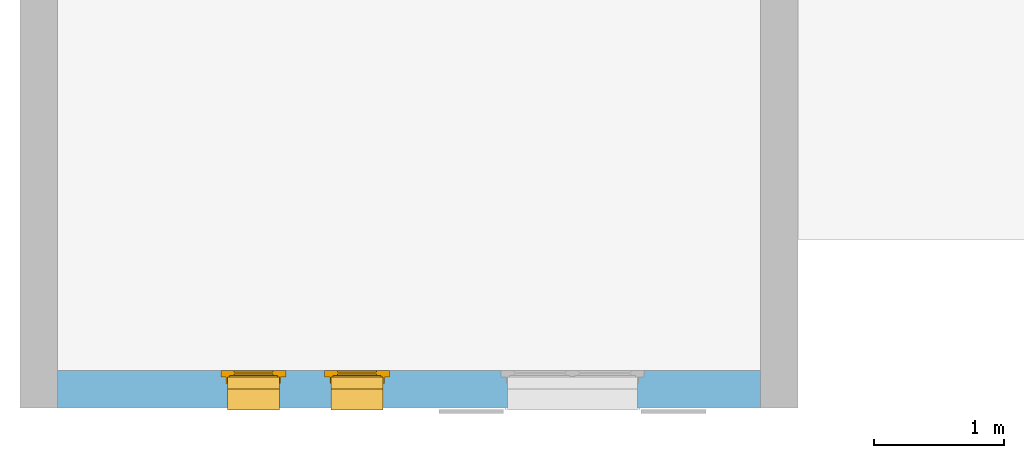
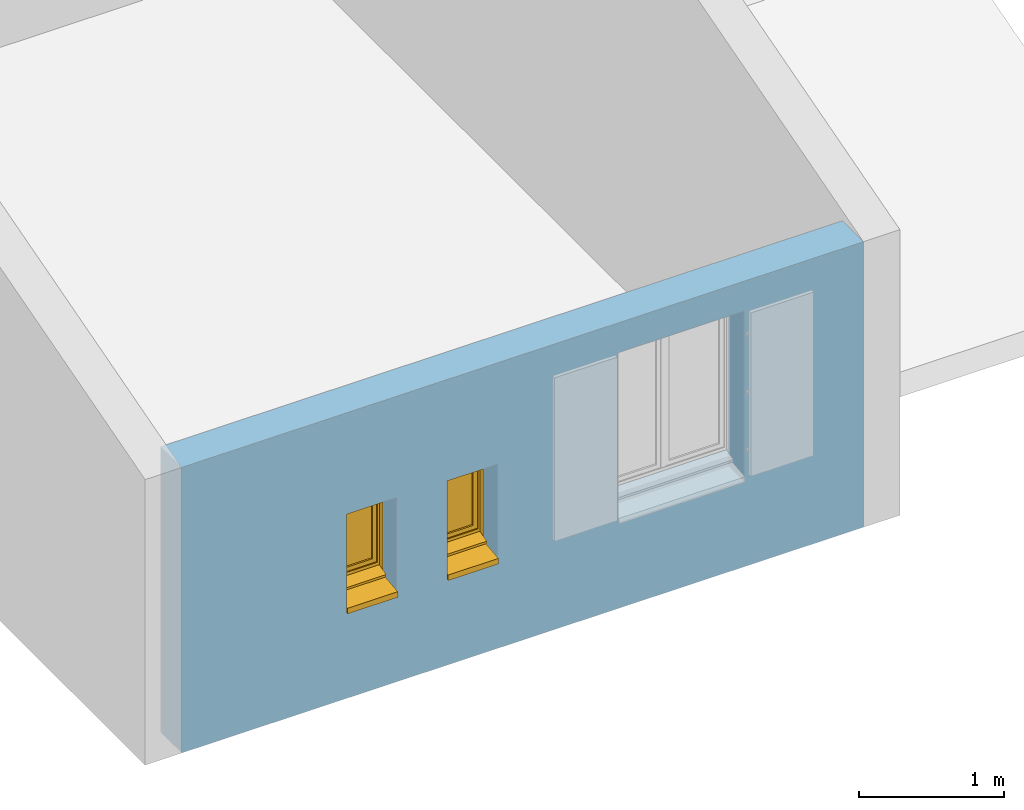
# One storey, part 3 of 6: 2 windows, 3 openings, plus 1 element that does not belong to this part.
"""IFC2X3 building model written with IfcOpenShell, lengths in metres."""

from ifc_helpers import new_model, entity, si_unit, converted_unit, derived_unit, direction, frame, frame_2d, origin, place, context, subcontext, project, spatial, rectangle, extrude, faceted_brep, source, transform, mapped, material, material_list, layer, layer_set, layer_usage, type_object, type_shapes, element, fill, save


model = new_model("IFC2X3")

# Units and contexts
model_context = context("Model", 3, precision=1e-05, world=origin(), true_north=direction((6.12303176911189e-17, 1.0)))
context_of_model = context(None, 3, precision=1e-05, world=origin(), true_north=direction((6.12303176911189e-17, 1.0)))
body_context = subcontext(model_context, "Body", "Model", "MODEL_VIEW")
ifc_project = project(units=[si_unit("LENGTHUNIT", "METRE"), si_unit("AREAUNIT", "SQUARE_METRE"), si_unit("VOLUMEUNIT", "CUBIC_METRE"), converted_unit("PLANEANGLEUNIT", "DEGREE", entity("IfcRatioMeasure", 0.0174532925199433), si_unit("PLANEANGLEUNIT", "RADIAN"), dimensions=[0, 0, 0, 0, 0, 0, 0]), si_unit("MASSUNIT", "GRAM", prefix="KILO"), si_unit("TIMEUNIT", "SECOND"), si_unit("FREQUENCYUNIT", "HERTZ"), si_unit("THERMODYNAMICTEMPERATUREUNIT", "DEGREE_CELSIUS"), derived_unit("THERMALTRANSMITTANCEUNIT", [(si_unit("MASSUNIT", "GRAM", prefix="KILO"), 1), (si_unit("THERMODYNAMICTEMPERATUREUNIT", "KELVIN"), -1), (si_unit("TIMEUNIT", "SECOND"), -3)]), derived_unit("VOLUMETRICFLOWRATEUNIT", [(si_unit("LENGTHUNIT", "METRE"), 3), (si_unit("TIMEUNIT", "SECOND"), -1)]), si_unit("ELECTRICCURRENTUNIT", "AMPERE"), si_unit("ELECTRICVOLTAGEUNIT", "VOLT"), si_unit("POWERUNIT", "WATT"), si_unit("FORCEUNIT", "NEWTON", prefix="KILO"), si_unit("ILLUMINANCEUNIT", "LUX"), si_unit("LUMINOUSFLUXUNIT", "LUMEN"), si_unit("LUMINOUSINTENSITYUNIT", "CANDELA"), si_unit("PRESSUREUNIT", "PASCAL")], contexts=[model_context, context_of_model])

# Site, building, storey
site_placement = place(None, origin())
site = spatial("IfcSite", under=ifc_project, at=site_placement, Name="Surface", CompositionType="ELEMENT")
building_placement = place(site_placement, origin())
building = spatial("IfcBuilding", under=site, at=building_placement, CompositionType="ELEMENT")
storey_placement = place(building_placement, frame((0.0, 0.0, 2.64)))
storey = spatial("IfcBuildingStorey", under=building, at=storey_placement, Name="Niveau 1", CompositionType="ELEMENT", Elevation=2.64)

# Wall, openings, windows
ifc_material_1 = material(Name="Maçonnerie - Enduit")
ifc_layer_1 = layer(ifc_material_1, 0.01)
ifc_material_2 = material(Name="Eléments de maçonnerie en béton")
ifc_layer_2 = layer(ifc_material_2, 0.2)
ifc_material_3 = material(Name="Maçonnerie - Isolant")
ifc_layer_3 = layer(ifc_material_3, 0.08)
ifc_layer_set = layer_set([ifc_layer_1, ifc_layer_2, ifc_layer_3], Name="Mur de base:Ext. Parpaing 20 + Isolant 8")
ifc_layer_usage = layer_usage(ifc_layer_set, "AXIS2", "NEGATIVE", 0.145)
wall_type = type_object("IfcWallType", Name="Mur de base:Ext. Parpaing 20 + Isolant 8", PredefinedType="STANDARD", material=ifc_layer_set)
wall_placement = place(storey_placement, frame((-3.08909160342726, -7.21358265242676, 0.0), z_axis=(0.0, 0.0, 1.0), x_axis=(-1.0, 0.0, 0.0)))
wall = element("IfcWallStandardCase", 1, at=wall_placement, inside=storey, type_object=wall_type, material=ifc_layer_usage, Name="Mur de base:Ext. Parpaing 20 + Isolant 8", ObjectType="Mur de base:Ext. Parpaing 20 + Isolant 8", context=body_context, shape_type="SweptSolid", body=[
    extrude(rectangle(XDim=5.42, YDim=0.289999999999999, at=frame_2d((2.71, 0.0), x_axis=(-1.0, 0.0))), origin(), (0.0, 0.0, 1.0), 2.4),
])
opening_1_placement = place(wall_placement, frame((2.0, 0.500000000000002, 0.72), z_axis=(0.0, 0.0, 1.0), x_axis=(-1.0, 0.0, 0.0)))
element("IfcOpeningElement", 2, at=opening_1_placement, cuts=wall, Name="Mur de base:Ext. Parpaing 20 + Isolant 8", ObjectType="Opening", context=body_context, shape_type="Brep", body=[
    faceted_brep([(1.05, 0.565000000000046, 0.0800000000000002), (1.05, 0.544999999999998, 0.0800000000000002), (1.05, 0.544999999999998, 1.43), (1.05, 0.0, 1.43), (1.05, 0.0, 0.0), (1.05, 0.565000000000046, 0.0), (0.0500000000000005, 1.0, 0.0800000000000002), (0.0499999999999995, 0.645000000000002, 0.0800000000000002), (0.0499999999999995, 0.645000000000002, 1.43), (0.0500000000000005, 1.0, 1.43), (1.05, 1.0, 0.0800000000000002), (1.05, 0.645000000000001, 0.0800000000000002), (1.1, 0.645000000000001, 0.0800000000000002), (1.1, 0.595000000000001, 0.0800000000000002), (1.06, 0.595000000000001, 0.0800000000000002), (1.06, 0.544999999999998, 0.0800000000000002), (0.0499999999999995, 0.565000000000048, 0.0800000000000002), (0.0499999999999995, 0.544999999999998, 0.0800000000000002), (0.0399999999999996, 0.544999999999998, 0.0800000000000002), (0.0399999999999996, 0.595000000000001, 0.0800000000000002), (0.0, 0.595000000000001, 0.0800000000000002), (0.0, 0.645000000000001, 0.0800000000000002), (1.05, 1.0, 1.43), (0.0499999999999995, 0.544999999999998, 1.43), (0.0499999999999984, 0.0, 1.43), (0.0499999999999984, 0.0, 0.0), (0.0499999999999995, 0.565000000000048, 0.0), (1.1, 0.645000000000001, 1.48), (1.1, 0.595000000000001, 1.48), (0.0, 0.595000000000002, 1.48), (0.0399999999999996, 0.595000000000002, 1.44), (1.06, 0.595000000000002, 1.44), (1.06, 0.545, 1.44), (0.0399999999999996, 0.544999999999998, 1.44), (1.05, 0.645000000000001, 1.43), (0.0, 0.645000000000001, 1.48)], [[[0, 1, 2, 3, 4, 5]], [[6, 7, 8, 9]], [[10, 11, 12, 13, 14, 15, 1, 0, 16, 17, 18, 19, 20, 21, 7, 6]], [[10, 6, 9, 22]], [[3, 2, 23, 24]], [[3, 24, 25, 4]], [[4, 25, 26, 5]], [[5, 26, 16, 0]], [[12, 27, 28, 13]], [[13, 28, 29, 20, 19, 30, 31, 14]], [[14, 31, 32, 15]], [[15, 32, 33, 18, 17, 23, 2, 1]], [[11, 34, 8, 7, 21, 35, 27, 12]], [[27, 35, 29, 28]], [[30, 33, 32, 31]], [[29, 35, 21, 20]], [[19, 18, 33, 30]], [[9, 8, 34, 22]], [[24, 23, 17, 16, 26, 25]], [[22, 34, 11, 10]]]),
])
opening_2_placement = place(wall_placement, frame((3.36, 0.500000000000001, 0.72), z_axis=(0.0, 0.0, 1.0), x_axis=(-1.0, 0.0, 0.0)))
opening_2 = element("IfcOpeningElement", 3, at=opening_2_placement, cuts=wall, Name="Mur de base:Ext. Parpaing 20 + Isolant 8", ObjectType="Opening", context=body_context, shape_type="Brep", body=[
    faceted_brep([(0.45, 0.565000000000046, 0.0800000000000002), (0.45, 0.544999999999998, 0.0800000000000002), (0.45, 0.544999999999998, 0.83), (0.449999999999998, 0.0, 0.83), (0.449999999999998, 0.0, 0.0), (0.45, 0.565000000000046, 0.0), (0.0500000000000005, 1.0, 0.0800000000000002), (0.0499999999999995, 0.645, 0.0800000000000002), (0.0499999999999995, 0.645, 0.83), (0.0500000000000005, 1.0, 0.83), (0.450000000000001, 1.0, 0.0800000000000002), (0.45, 0.645000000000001, 0.0800000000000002), (0.5, 0.645000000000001, 0.0800000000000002), (0.5, 0.595000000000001, 0.0800000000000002), (0.46, 0.595000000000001, 0.0800000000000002), (0.46, 0.544999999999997, 0.0800000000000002), (0.0500000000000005, 0.565000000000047, 0.0800000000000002), (0.0499999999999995, 0.544999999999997, 0.0799999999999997), (0.0400000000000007, 0.544999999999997, 0.0800000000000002), (0.0400000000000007, 0.595000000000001, 0.0800000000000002), (0.0, 0.595000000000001, 0.0800000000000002), (0.0, 0.645000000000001, 0.0800000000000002), (0.450000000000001, 1.0, 0.83), (0.0499999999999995, 0.544999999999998, 0.83), (0.0499999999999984, 0.0, 0.83), (0.0499999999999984, 0.0, 0.0), (0.0499999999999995, 0.565000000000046, 0.0), (0.499999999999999, 0.645, 0.879999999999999), (0.499999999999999, 0.595, 0.88), (0.0, 0.595000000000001, 0.88), (0.0399999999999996, 0.595000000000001, 0.840000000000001), (0.46, 0.595000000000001, 0.840000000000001), (0.459999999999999, 0.544999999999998, 0.84), (0.0399999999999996, 0.544999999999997, 0.84), (0.45, 0.645000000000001, 0.83), (0.0, 0.645, 0.88)], [[[0, 1, 2, 3, 4, 5]], [[6, 7, 8, 9]], [[10, 11, 12, 13, 14, 15, 1, 0, 16, 17, 18, 19, 20, 21, 7, 6]], [[10, 6, 9, 22]], [[3, 2, 23, 24]], [[3, 24, 25, 4]], [[4, 25, 26, 5]], [[5, 26, 16, 0]], [[12, 27, 28, 13]], [[13, 28, 29, 20, 19, 30, 31, 14]], [[14, 31, 32, 15]], [[15, 32, 33, 18, 17, 23, 2, 1]], [[11, 34, 8, 7, 21, 35, 27, 12]], [[27, 35, 29, 28]], [[30, 33, 32, 31]], [[29, 35, 21, 20]], [[19, 18, 33, 30]], [[9, 8, 34, 22]], [[24, 23, 17, 16, 26, 25]], [[22, 34, 11, 10]]]),
])
opening_3_placement = place(wall_placement, frame((4.16, 0.500000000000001, 0.72), z_axis=(0.0, 0.0, 1.0), x_axis=(-1.0, 0.0, 0.0)))
opening_3 = element("IfcOpeningElement", 4, at=opening_3_placement, cuts=wall, Name="Mur de base:Ext. Parpaing 20 + Isolant 8", ObjectType="Opening", context=body_context, shape_type="Brep", body=[
    faceted_brep([(0.45, 0.565000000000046, 0.0800000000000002), (0.45, 0.544999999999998, 0.0800000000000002), (0.45, 0.544999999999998, 0.83), (0.449999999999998, 0.0, 0.83), (0.449999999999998, 0.0, 0.0), (0.45, 0.565000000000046, 0.0), (0.0500000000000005, 1.0, 0.0800000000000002), (0.0499999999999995, 0.645, 0.0800000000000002), (0.0499999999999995, 0.645, 0.83), (0.0500000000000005, 1.0, 0.83), (0.450000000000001, 1.0, 0.0800000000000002), (0.45, 0.645000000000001, 0.0800000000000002), (0.5, 0.645000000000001, 0.0800000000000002), (0.5, 0.595000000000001, 0.0800000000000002), (0.46, 0.595000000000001, 0.0800000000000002), (0.46, 0.544999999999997, 0.0800000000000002), (0.0500000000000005, 0.565000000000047, 0.0800000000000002), (0.0499999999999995, 0.544999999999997, 0.0799999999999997), (0.0400000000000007, 0.544999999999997, 0.0800000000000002), (0.0400000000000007, 0.595000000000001, 0.0800000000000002), (0.0, 0.595000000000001, 0.0800000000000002), (0.0, 0.645000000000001, 0.0800000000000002), (0.450000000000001, 1.0, 0.83), (0.0499999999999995, 0.544999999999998, 0.83), (0.0499999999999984, 0.0, 0.83), (0.0499999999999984, 0.0, 0.0), (0.0499999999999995, 0.565000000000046, 0.0), (0.499999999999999, 0.645, 0.879999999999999), (0.499999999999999, 0.595, 0.88), (0.0, 0.595000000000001, 0.88), (0.0399999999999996, 0.595000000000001, 0.840000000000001), (0.46, 0.595000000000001, 0.840000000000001), (0.459999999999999, 0.544999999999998, 0.84), (0.0399999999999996, 0.544999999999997, 0.84), (0.45, 0.645000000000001, 0.83), (0.0, 0.645, 0.88)], [[[0, 1, 2, 3, 4, 5]], [[6, 7, 8, 9]], [[10, 11, 12, 13, 14, 15, 1, 0, 16, 17, 18, 19, 20, 21, 7, 6]], [[10, 6, 9, 22]], [[3, 2, 23, 24]], [[3, 24, 25, 4]], [[4, 25, 26, 5]], [[5, 26, 16, 0]], [[12, 27, 28, 13]], [[13, 28, 29, 20, 19, 30, 31, 14]], [[14, 31, 32, 15]], [[15, 32, 33, 18, 17, 23, 2, 1]], [[11, 34, 8, 7, 21, 35, 27, 12]], [[27, 35, 29, 28]], [[30, 33, 32, 31]], [[29, 35, 21, 20]], [[19, 18, 33, 30]], [[9, 8, 34, 22]], [[24, 23, 17, 16, 26, 25]], [[22, 34, 11, 10]]]),
])
ifc_material_4 = material(Name="Fenêtre - Poignée")
ifc_material_5 = material(Name="Fenêtre - Appui")
ifc_material_6 = material(Name="Fenêtre - Vitrage")
ifc_material_7 = material(Name="Fenêtre - Cadre")
ifc_material_list_1 = material_list([ifc_material_4, ifc_material_5, ifc_material_6, ifc_material_7])
ifc_material_list_2 = material_list([ifc_material_4, ifc_material_5, ifc_material_6, ifc_material_7])
window_style = type_object("IfcWindowStyle", Name="0.40m x 0.75m - Appui Béton", ConstructionType="NOTDEFINED", OperationType="NOTDEFINED", ParameterTakesPrecedence=False, Sizeable=False, material=ifc_material_list_2)
shared_shape = source(origin(), body_context, "Body", "Brep", [
    faceted_brep([(0.0806460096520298, -0.65100000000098, 0.702033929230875), (0.08203392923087, -0.65100000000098, 0.700646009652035), (0.08203392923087, -0.65100000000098, 0.68933230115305), (0.0806676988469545, -0.65100000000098, 0.687966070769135), (0.0693323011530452, -0.65100000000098, 0.687966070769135), (0.0679660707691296, -0.65100000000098, 0.689332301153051), (0.0679660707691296, -0.65100000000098, 0.700646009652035), (0.0693539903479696, -0.65100000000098, 0.702033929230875), (0.0806460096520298, -0.663913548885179, 0.702033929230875), (0.0820339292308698, -0.66333865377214, 0.700646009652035), (0.08203392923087, -0.67664600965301, 0.687338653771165), (0.08203392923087, -0.67664600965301, 0.600000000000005), (0.08203392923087, -0.665332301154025, 0.600000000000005), (0.08203392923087, -0.665332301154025, 0.68265236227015), (0.08203392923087, -0.658652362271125, 0.689332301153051), (0.0806676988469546, -0.658086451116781, 0.687966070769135), (0.0693323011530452, -0.658086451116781, 0.687966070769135), (0.0679660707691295, -0.658652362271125, 0.689332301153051), (0.0679660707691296, -0.665332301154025, 0.68265236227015), (0.0679660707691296, -0.665332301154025, 0.600000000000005), (0.0679660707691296, -0.67664600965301, 0.600000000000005), (0.0679660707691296, -0.67664600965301, 0.687338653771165), (0.0679660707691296, -0.66333865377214, 0.700646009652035), (0.0693539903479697, -0.663913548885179, 0.702033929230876), (0.0806460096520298, -0.67803392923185, 0.687913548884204), (0.0806676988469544, -0.66396607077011, 0.682086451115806), (0.0693323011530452, -0.663966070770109, 0.682086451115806), (0.0693539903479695, -0.67803392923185, 0.687913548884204), (0.0806460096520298, -0.67803392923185, 0.600000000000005), (0.0693539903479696, -0.67803392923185, 0.600000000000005), (0.0693323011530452, -0.663966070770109, 0.600000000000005), (0.0806676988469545, -0.66396607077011, 0.600000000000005)], [[[0, 1, 2, 3, 4, 5, 6, 7]], [[1, 0, 8, 9]], [[2, 1, 9, 10, 11, 12, 13, 14]], [[3, 2, 14, 15]], [[4, 3, 15, 16]], [[5, 4, 16, 17]], [[6, 5, 17, 18, 19, 20, 21, 22]], [[7, 6, 22, 23]], [[0, 7, 23, 8]], [[9, 8, 24, 10]], [[15, 14, 13, 25]], [[16, 15, 25, 26]], [[17, 16, 26, 18]], [[23, 22, 21, 27]], [[8, 23, 27, 24]], [[28, 29, 20, 19, 30, 31, 12, 11]], [[10, 24, 28, 11]], [[25, 13, 12, 31]], [[26, 25, 31, 30]], [[18, 26, 30, 19]], [[27, 21, 20, 29]], [[24, 27, 29, 28]]]),
    faceted_brep([(0.0820000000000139, -0.651, 0.720000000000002), (0.0679999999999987, -0.651, 0.720000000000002), (0.0629999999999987, -0.651, 0.715000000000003), (0.0629999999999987, -0.651, 0.644999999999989), (0.0679999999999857, -0.651, 0.640000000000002), (0.0820000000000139, -0.651, 0.640000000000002), (0.0869999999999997, -0.651, 0.644999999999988), (0.0869999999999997, -0.651, 0.715000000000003), (0.0820000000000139, -0.645, 0.720000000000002), (0.0869999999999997, -0.645, 0.715000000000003), (0.0869999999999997, -0.645, 0.644999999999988), (0.0820000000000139, -0.645, 0.640000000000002), (0.0679999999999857, -0.645, 0.640000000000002), (0.0629999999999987, -0.645, 0.644999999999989), (0.0629999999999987, -0.645, 0.715000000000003), (0.0679999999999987, -0.645, 0.720000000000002)], [[[0, 1, 2, 3, 4, 5, 6, 7]], [[8, 9, 10, 11, 12, 13, 14, 15]], [[1, 0, 8, 15]], [[2, 1, 15, 14]], [[3, 2, 14, 13]], [[4, 3, 13, 12]], [[5, 4, 12, 11]], [[6, 5, 11, 10]], [[7, 6, 10, 9]], [[0, 7, 9, 8]]]),
    faceted_brep([(0.0499999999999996, -0.564999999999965, 0.0799999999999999), (0.0499999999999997, -0.514999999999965, 0.0799999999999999), (0.0499999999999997, -0.514999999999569, 0.0650000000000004), (0.0499999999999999, -0.339999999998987, 0.0466067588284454), (0.0499999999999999, -0.339999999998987, 0.0), (0.0499999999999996, -0.564999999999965, 0.0), (0.45, -0.564999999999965, 0.0799999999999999), (0.45, -0.564999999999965, 0.0), (0.45, -0.339999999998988, 0.0), (0.45, -0.339999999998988, 0.0466067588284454), (0.45, -0.51499999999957, 0.0650000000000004), (0.45, -0.514999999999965, 0.0799999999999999)], [[[0, 1, 2, 3, 4, 5]], [[6, 7, 8, 9, 10, 11]], [[1, 0, 6, 11]], [[2, 1, 11, 10]], [[3, 2, 10, 9]], [[4, 3, 9, 8]], [[5, 4, 8, 7]], [[0, 5, 7, 6]]]),
    faceted_brep([(0.0999999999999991, -0.619000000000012, 0.18), (0.099999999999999, -0.619000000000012, 0.78), (0.4, -0.619000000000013, 0.78), (0.4, -0.619000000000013, 0.18), (0.099999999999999, -0.631000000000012, 0.18), (0.099999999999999, -0.631000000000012, 0.78), (0.4, -0.631000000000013, 0.78), (0.4, -0.631000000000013, 0.18)], [[[0, 1, 2, 3]], [[1, 0, 4, 5]], [[3, 2, 6, 7]], [[0, 3, 7, 4]], [[4, 7, 6, 5]], [[2, 1, 5, 6]]]),
    faceted_brep([(0.0999999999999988, -0.605000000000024, 0.780000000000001), (0.0999999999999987, -0.645000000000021, 0.780000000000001), (0.0999999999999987, -0.645000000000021, 0.179999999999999), (0.0999999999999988, -0.605000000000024, 0.179999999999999), (0.4, -0.645000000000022, 0.179999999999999), (0.4, -0.605000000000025, 0.179999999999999), (0.4, -0.645000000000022, 0.780000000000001), (0.45, -0.645000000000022, 0.13), (0.45, -0.645000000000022, 0.83), (0.0499999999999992, -0.645000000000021, 0.83), (0.0499999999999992, -0.645000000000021, 0.13), (0.4, -0.605000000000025, 0.780000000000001), (0.0499999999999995, -0.605000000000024, 0.13), (0.0499999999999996, -0.605000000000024, 0.83), (0.45, -0.605000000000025, 0.83), (0.45, -0.605000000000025, 0.13)], [[[0, 1, 2, 3]], [[3, 2, 4, 5]], [[2, 1, 6, 4], [7, 8, 9, 10]], [[5, 4, 6, 11]], [[5, 11, 0, 3], [12, 13, 14, 15]], [[9, 13, 12, 10]], [[10, 12, 15, 7]], [[7, 15, 14, 8]], [[11, 6, 1, 0]], [[8, 14, 13, 9]]], outer=[[True], [True], [False, True], [True], [False, True], [True], [True], [True], [True], [True]]),
    faceted_brep([(0.0, -0.645, 0.0799999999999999), (0.0, -0.595000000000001, 0.0799999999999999), (0.0499999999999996, -0.595000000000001, 0.0799999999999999), (0.0499999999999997, -0.510000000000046, 0.0800000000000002), (0.45, -0.510000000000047, 0.0799999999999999), (0.45, -0.595000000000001, 0.0799999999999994), (0.499999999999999, -0.595000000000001, 0.0799999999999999), (0.499999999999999, -0.645, 0.0799999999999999), (0.0, -0.645, 0.879999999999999), (0.0, -0.595000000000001, 0.879999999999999), (0.499999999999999, -0.595000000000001, 0.879999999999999), (0.45, -0.595000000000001, 0.119376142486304), (0.0499999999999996, -0.595000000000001, 0.119376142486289), (0.0649999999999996, -0.595000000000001, 0.815), (0.0649999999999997, -0.595000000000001, 0.145), (0.435, -0.595000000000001, 0.145), (0.435, -0.595000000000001, 0.815), (0.0499999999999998, -0.500000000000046, 0.0939209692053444), (0.0499999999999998, -0.500000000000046, 0.0749999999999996), (0.0499999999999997, -0.510000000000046, 0.0749999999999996), (0.45, -0.510000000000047, 0.0749999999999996), (0.45, -0.500000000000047, 0.0749999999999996), (0.45, -0.500000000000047, 0.0939209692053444), (0.499999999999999, -0.645, 0.879999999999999), (0.45, -0.645, 0.83), (0.45, -0.645, 0.13), (0.0499999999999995, -0.645, 0.13), (0.0499999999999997, -0.645, 0.83), (0.0649999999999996, -0.605000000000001, 0.815), (0.0649999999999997, -0.605000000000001, 0.145), (0.435, -0.605000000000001, 0.145), (0.435, -0.605000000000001, 0.815), (0.45, -0.605000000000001, 0.83), (0.0499999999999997, -0.605000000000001, 0.83), (0.0499999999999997, -0.605000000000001, 0.13), (0.45, -0.605000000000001, 0.13)], [[[0, 1, 2, 3, 4, 5, 6, 7]], [[1, 0, 8, 9]], [[1, 9, 10, 6, 5, 11, 12, 2], [13, 14, 15, 16]], [[12, 17, 18, 19, 3, 2]], [[3, 19, 20, 4]], [[4, 20, 21, 22, 11, 5]], [[6, 10, 23, 7]], [[0, 7, 23, 8], [24, 25, 26, 27]], [[13, 28, 29, 14]], [[29, 30, 15, 14]], [[31, 16, 15, 30]], [[17, 12, 11, 22]], [[32, 33, 34, 35], [28, 31, 30, 29]], [[34, 33, 27, 26]], [[26, 25, 35, 34]], [[24, 32, 35, 25]], [[18, 17, 22, 21]], [[19, 18, 21, 20]], [[13, 16, 31, 28]], [[33, 32, 24, 27]], [[10, 9, 8, 23]]]),
    faceted_brep([(0.0499999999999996, -0.544999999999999, 0.0799999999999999), (0.0499999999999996, -0.595000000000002, 0.0799999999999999), (0.0399999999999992, -0.595000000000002, 0.0799999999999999), (0.0399999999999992, -0.544999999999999, 0.0799999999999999), (0.0499999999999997, -0.544999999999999, 0.83), (0.0499999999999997, -0.595000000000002, 0.83), (0.45, -0.595000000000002, 0.83), (0.45, -0.595000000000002, 0.0799999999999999), (0.46, -0.595000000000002, 0.0799999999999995), (0.46, -0.595000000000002, 0.84), (0.0399999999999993, -0.595000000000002, 0.84), (0.0399999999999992, -0.544999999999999, 0.84), (0.46, -0.544999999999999, 0.84), (0.46, -0.544999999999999, 0.0799999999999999), (0.45, -0.544999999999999, 0.0799999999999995), (0.45, -0.544999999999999, 0.83)], [[[0, 1, 2, 3]], [[1, 0, 4, 5]], [[2, 1, 5, 6, 7, 8, 9, 10]], [[3, 2, 10, 11]], [[0, 3, 11, 12, 13, 14, 15, 4]], [[6, 15, 14, 7]], [[14, 13, 8, 7]], [[12, 9, 8, 13]], [[5, 4, 15, 6]], [[11, 10, 9, 12]]]),
])
type_shapes(window_style, [shared_shape])
window_1_placement = place(storey_placement, frame((-5.94909160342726, -7.71358265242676, 0.72), z_axis=(0.0, 0.0, 1.0), x_axis=(-1.0, 0.0, 0.0)))
window_1 = element("IfcWindow", 5, at=window_1_placement, inside=storey, type_object=window_style, material=ifc_material_list_1, Name="1 Vantail droit - Volet et petits bois:0.40m x 0.75m - Appui Béton", ObjectType="0.40m x 0.75m - Appui Béton", OverallHeight=1.08, OverallWidth=0.5, context=body_context, shape_type="MappedRepresentation", body=[
    mapped(shared_shape, transform((0.0, 0.0, 0.0), scale=1.0)),
])
fill(opening_2, window_1)
ifc_material_list_3 = material_list([ifc_material_4, ifc_material_5, ifc_material_6, ifc_material_7])
window_2_placement = place(storey_placement, frame((-6.74909160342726, -7.71358265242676, 0.72), z_axis=(0.0, 0.0, 1.0), x_axis=(-1.0, 0.0, 0.0)))
window_2 = element("IfcWindow", 6, at=window_2_placement, inside=storey, type_object=window_style, material=ifc_material_list_3, Name="1 Vantail droit - Volet et petits bois:0.40m x 0.75m - Appui Béton", ObjectType="0.40m x 0.75m - Appui Béton", OverallHeight=1.08, OverallWidth=0.5, context=body_context, shape_type="MappedRepresentation", body=[
    mapped(shared_shape, transform((0.0, 0.0, 0.0), scale=1.0)),
])
fill(opening_3, window_2)

save(model, "model.ifc")
